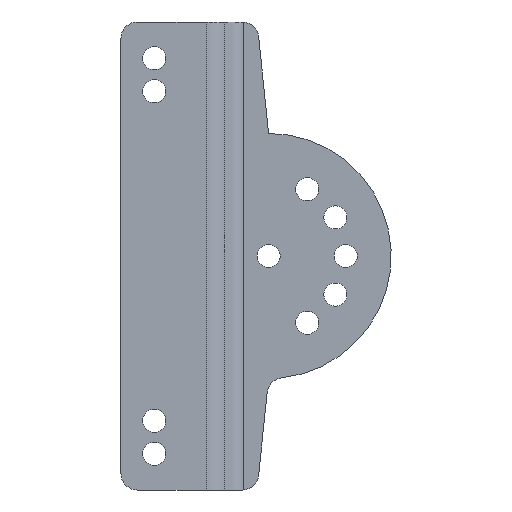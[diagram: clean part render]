
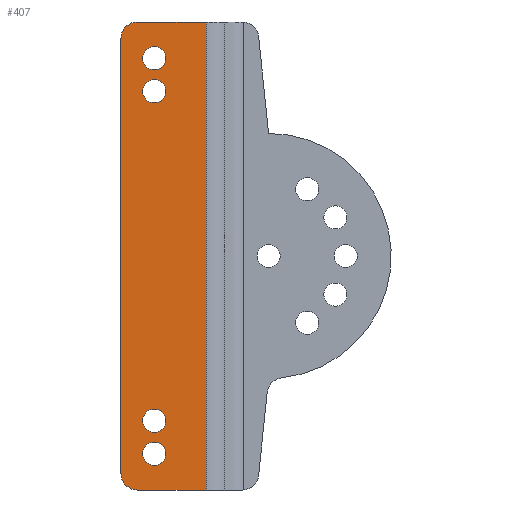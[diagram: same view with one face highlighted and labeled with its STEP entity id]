
A CAD part, front view. The second image highlights one B-rep face of the part: STEP entity #407.
In plain terms, the highlighted planar face has unit normal (0, -1, 0).
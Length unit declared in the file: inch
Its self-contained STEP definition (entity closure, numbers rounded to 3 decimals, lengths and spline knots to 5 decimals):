
#2 = VECTOR ( 'NONE', #992, 39.37008 ) ;
#23 = EDGE_CURVE ( 'NONE', #147, #1410, #844, .T. ) ;
#30 = DIRECTION ( 'NONE',  ( 0., 1., 0. ) ) ;
#32 = LINE ( 'NONE', #1239, #2 ) ;
#53 = CARTESIAN_POINT ( 'NONE',  ( -0.895, -0.135, -2.325 ) ) ;
#103 = DIRECTION ( 'NONE',  ( 0., 1., 0. ) ) ;
#112 = VERTEX_POINT ( 'NONE', #942 ) ;
#118 = DIRECTION ( 'NONE',  ( 0., 1., 0. ) ) ;
#120 = CARTESIAN_POINT ( 'NONE',  ( -0.895, -0.135, 2.325 ) ) ;
#144 = VERTEX_POINT ( 'NONE', #146 ) ;
#146 = CARTESIAN_POINT ( 'NONE',  ( -1.15, -0.135, 3.55 ) ) ;
#147 = VERTEX_POINT ( 'NONE', #586 ) ;
#181 = CARTESIAN_POINT ( 'NONE',  ( -0.895, -0.135, -3.175 ) ) ;
#183 = CARTESIAN_POINT ( 'NONE',  ( -0.10355, -0.135, -3.55 ) ) ;
#198 = ORIENTED_EDGE ( 'NONE', *, *, #1313, .T. ) ;
#212 = FACE_BOUND ( 'NONE', #1349, .T. ) ;
#226 = AXIS2_PLACEMENT_3D ( 'NONE', #1016, #296, #789 ) ;
#229 = EDGE_LOOP ( 'NONE', ( #713, #1444, #890, #826, #1109, #729 ) ) ;
#233 = VERTEX_POINT ( 'NONE', #120 ) ;
#240 = VERTEX_POINT ( 'NONE', #1557 ) ;
#251 = VERTEX_POINT ( 'NONE', #409 ) ;
#255 = AXIS2_PLACEMENT_3D ( 'NONE', #554, #1029, #1153 ) ;
#258 = EDGE_CURVE ( 'NONE', #112, #251, #1101, .T. ) ;
#269 = DIRECTION ( 'NONE',  ( 0., 0., 1. ) ) ;
#296 = DIRECTION ( 'NONE',  ( 0., -1., 0. ) ) ;
#336 = DIRECTION ( 'NONE',  ( 0., 0., 1. ) ) ;
#341 = ORIENTED_EDGE ( 'NONE', *, *, #23, .T. ) ;
#379 = CARTESIAN_POINT ( 'NONE',  ( -1.4, -0.135, -3.55 ) ) ;
#398 = VERTEX_POINT ( 'NONE', #449 ) ;
#407 = ADVANCED_FACE ( 'NONE', ( #1415, #1402, #212, #837, #1424 ), #1284, .F. ) ;
#409 = CARTESIAN_POINT ( 'NONE',  ( -1.15, -0.135, -3.55 ) ) ;
#427 = EDGE_CURVE ( 'NONE', #1195, #398, #1104, .T. ) ;
#449 = CARTESIAN_POINT ( 'NONE',  ( -0.895, -0.135, -2.675 ) ) ;
#463 = DIRECTION ( 'NONE',  ( 0., 0., 1. ) ) ;
#482 = EDGE_CURVE ( 'NONE', #398, #1195, #1206, .T. ) ;
#507 = DIRECTION ( 'NONE',  ( 0., 0., -1. ) ) ;
#508 = DIRECTION ( 'NONE',  ( 0., -1., 0. ) ) ;
#529 = AXIS2_PLACEMENT_3D ( 'NONE', #948, #118, #693 ) ;
#532 = DIRECTION ( 'NONE',  ( 0., 1., 0. ) ) ;
#547 = LINE ( 'NONE', #647, #1274 ) ;
#554 = CARTESIAN_POINT ( 'NONE',  ( -0.895, -0.135, 3. ) ) ;
#584 = VERTEX_POINT ( 'NONE', #183 ) ;
#586 = CARTESIAN_POINT ( 'NONE',  ( -0.895, -0.135, 2.825 ) ) ;
#609 = CARTESIAN_POINT ( 'NONE',  ( -1.4, -0.135, 3.3 ) ) ;
#615 = ORIENTED_EDGE ( 'NONE', *, *, #482, .T. ) ;
#647 = CARTESIAN_POINT ( 'NONE',  ( -1.4, -0.135, 3.55 ) ) ;
#652 = VECTOR ( 'NONE', #922, 39.37008 ) ;
#665 = EDGE_CURVE ( 'NONE', #1457, #112, #547, .T. ) ;
#669 = CIRCLE ( 'NONE', #1015, 0.175 ) ;
#693 = DIRECTION ( 'NONE',  ( 0., 0., 1. ) ) ;
#697 = VERTEX_POINT ( 'NONE', #1131 ) ;
#708 = DIRECTION ( 'NONE',  ( 0., 1., 0. ) ) ;
#713 = ORIENTED_EDGE ( 'NONE', *, *, #665, .T. ) ;
#719 = DIRECTION ( 'NONE',  ( 0., 1., 0. ) ) ;
#729 = ORIENTED_EDGE ( 'NONE', *, *, #1211, .T. ) ;
#750 = DIRECTION ( 'NONE',  ( 0., 1., 0. ) ) ;
#770 = CARTESIAN_POINT ( 'NONE',  ( -1.15, -0.135, -3.3 ) ) ;
#789 = DIRECTION ( 'NONE',  ( 0., 0., -1. ) ) ;
#792 = EDGE_LOOP ( 'NONE', ( #1526, #1027 ) ) ;
#796 = EDGE_CURVE ( 'NONE', #240, #584, #32, .T. ) ;
#803 = CIRCLE ( 'NONE', #906, 0.175 ) ;
#826 = ORIENTED_EDGE ( 'NONE', *, *, #796, .F. ) ;
#836 = ORIENTED_EDGE ( 'NONE', *, *, #1551, .T. ) ;
#837 = FACE_BOUND ( 'NONE', #1008, .T. ) ;
#844 = CIRCLE ( 'NONE', #1115, 0.175 ) ;
#847 = AXIS2_PLACEMENT_3D ( 'NONE', #1165, #103, #463 ) ;
#858 = CARTESIAN_POINT ( 'NONE',  ( -0.895, -0.135, 2.5 ) ) ;
#860 = DIRECTION ( 'NONE',  ( 1., 0., 0. ) ) ;
#890 = ORIENTED_EDGE ( 'NONE', *, *, #1099, .T. ) ;
#896 = EDGE_LOOP ( 'NONE', ( #1158, #836 ) ) ;
#906 = AXIS2_PLACEMENT_3D ( 'NONE', #1467, #532, #993 ) ;
#922 = DIRECTION ( 'NONE',  ( 1., 0., 0. ) ) ;
#935 = EDGE_CURVE ( 'NONE', #233, #937, #669, .T. ) ;
#936 = LINE ( 'NONE', #1525, #652 ) ;
#937 = VERTEX_POINT ( 'NONE', #1061 ) ;
#942 = CARTESIAN_POINT ( 'NONE',  ( -1.4, -0.135, -3.3 ) ) ;
#948 = CARTESIAN_POINT ( 'NONE',  ( -0.895, -0.135, -2.5 ) ) ;
#949 = DIRECTION ( 'NONE',  ( 0., 0., -1. ) ) ;
#962 = CARTESIAN_POINT ( 'NONE',  ( -0.895, -0.135, 3.175 ) ) ;
#971 = LINE ( 'NONE', #379, #1398 ) ;
#981 = CIRCLE ( 'NONE', #1279, 0.175 ) ;
#989 = EDGE_CURVE ( 'NONE', #697, #1174, #1036, .T. ) ;
#992 = DIRECTION ( 'NONE',  ( 0., 0., -1. ) ) ;
#993 = DIRECTION ( 'NONE',  ( 0., 0., 1. ) ) ;
#1008 = EDGE_LOOP ( 'NONE', ( #1430, #615 ) ) ;
#1015 = AXIS2_PLACEMENT_3D ( 'NONE', #1182, #719, #949 ) ;
#1016 = CARTESIAN_POINT ( 'NONE',  ( -1.15, -0.135, 3.3 ) ) ;
#1027 = ORIENTED_EDGE ( 'NONE', *, *, #935, .T. ) ;
#1029 = DIRECTION ( 'NONE',  ( 0., 1., 0. ) ) ;
#1036 = CIRCLE ( 'NONE', #847, 0.175 ) ;
#1061 = CARTESIAN_POINT ( 'NONE',  ( -0.895, -0.135, 2.675 ) ) ;
#1065 = DIRECTION ( 'NONE',  ( 0., 1., 0. ) ) ;
#1087 = CARTESIAN_POINT ( 'NONE',  ( -0.895, -0.135, -2.5 ) ) ;
#1097 = CARTESIAN_POINT ( 'NONE',  ( -0.895, -0.135, 3. ) ) ;
#1099 = EDGE_CURVE ( 'NONE', #251, #584, #971, .T. ) ;
#1101 = CIRCLE ( 'NONE', #1173, 0.25 ) ;
#1104 = CIRCLE ( 'NONE', #529, 0.175 ) ;
#1109 = ORIENTED_EDGE ( 'NONE', *, *, #1345, .F. ) ;
#1115 = AXIS2_PLACEMENT_3D ( 'NONE', #1097, #30, #507 ) ;
#1123 = CIRCLE ( 'NONE', #255, 0.175 ) ;
#1131 = CARTESIAN_POINT ( 'NONE',  ( -0.895, -0.135, -2.825 ) ) ;
#1153 = DIRECTION ( 'NONE',  ( 0., 0., -1. ) ) ;
#1158 = ORIENTED_EDGE ( 'NONE', *, *, #989, .T. ) ;
#1165 = CARTESIAN_POINT ( 'NONE',  ( -0.895, -0.135, -3. ) ) ;
#1173 = AXIS2_PLACEMENT_3D ( 'NONE', #770, #508, #269 ) ;
#1174 = VERTEX_POINT ( 'NONE', #181 ) ;
#1182 = CARTESIAN_POINT ( 'NONE',  ( -0.895, -0.135, 2.5 ) ) ;
#1195 = VERTEX_POINT ( 'NONE', #53 ) ;
#1206 = CIRCLE ( 'NONE', #1408, 0.175 ) ;
#1211 = EDGE_CURVE ( 'NONE', #144, #1457, #1226, .T. ) ;
#1212 = DIRECTION ( 'NONE',  ( 0., 0., 1. ) ) ;
#1226 = CIRCLE ( 'NONE', #226, 0.25 ) ;
#1239 = CARTESIAN_POINT ( 'NONE',  ( -0.10355, -0.135, 3.55 ) ) ;
#1274 = VECTOR ( 'NONE', #1478, 39.37008 ) ;
#1279 = AXIS2_PLACEMENT_3D ( 'NONE', #858, #1065, #1428 ) ;
#1284 = PLANE ( 'NONE',  #1535 ) ;
#1309 = CARTESIAN_POINT ( 'NONE',  ( -1.4, -0.135, 3.55 ) ) ;
#1313 = EDGE_CURVE ( 'NONE', #1410, #147, #1123, .T. ) ;
#1345 = EDGE_CURVE ( 'NONE', #144, #240, #936, .T. ) ;
#1349 = EDGE_LOOP ( 'NONE', ( #198, #341 ) ) ;
#1398 = VECTOR ( 'NONE', #860, 39.37008 ) ;
#1402 = FACE_BOUND ( 'NONE', #896, .T. ) ;
#1408 = AXIS2_PLACEMENT_3D ( 'NONE', #1087, #750, #1212 ) ;
#1410 = VERTEX_POINT ( 'NONE', #962 ) ;
#1415 = FACE_BOUND ( 'NONE', #792, .T. ) ;
#1424 = FACE_OUTER_BOUND ( 'NONE', #229, .T. ) ;
#1428 = DIRECTION ( 'NONE',  ( 0., 0., -1. ) ) ;
#1430 = ORIENTED_EDGE ( 'NONE', *, *, #427, .T. ) ;
#1433 = EDGE_CURVE ( 'NONE', #937, #233, #981, .T. ) ;
#1444 = ORIENTED_EDGE ( 'NONE', *, *, #258, .T. ) ;
#1457 = VERTEX_POINT ( 'NONE', #609 ) ;
#1467 = CARTESIAN_POINT ( 'NONE',  ( -0.895, -0.135, -3. ) ) ;
#1478 = DIRECTION ( 'NONE',  ( 0., 0., -1. ) ) ;
#1525 = CARTESIAN_POINT ( 'NONE',  ( -1.4, -0.135, 3.55 ) ) ;
#1526 = ORIENTED_EDGE ( 'NONE', *, *, #1433, .T. ) ;
#1535 = AXIS2_PLACEMENT_3D ( 'NONE', #1309, #708, #336 ) ;
#1551 = EDGE_CURVE ( 'NONE', #1174, #697, #803, .T. ) ;
#1557 = CARTESIAN_POINT ( 'NONE',  ( -0.10355, -0.135, 3.55 ) ) ;
